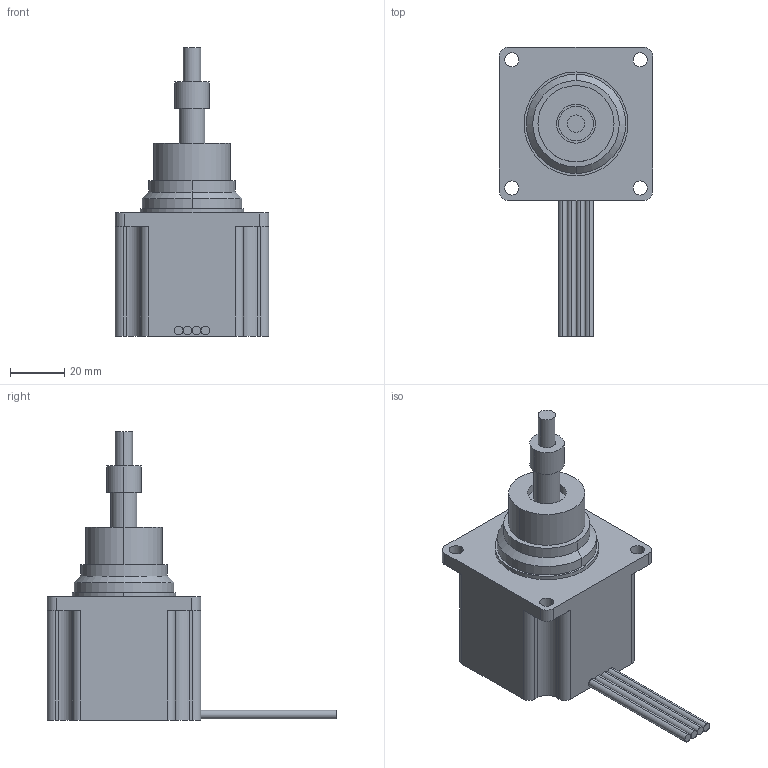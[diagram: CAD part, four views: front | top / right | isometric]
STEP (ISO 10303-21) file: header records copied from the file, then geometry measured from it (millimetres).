
FILE_DESCRIPTION (( 'STEP AP214' ), '1' );
FILE_NAME ('AMETEK-57H4A-3.25-0.5-12.step', '2020-01-14T09:34:26', ( '' ), ( '' ), 'SwSTEP 2.0', 'SolidWorks 2019', '' );
FILE_SCHEMA (( 'AUTOMOTIVE_DESIGN' ));
Length unit declared in the file: inch
Products named in the file (1): AMETEK-57H4A-3.25-0.5-12
Bounding box: 56.4 x 106.4 x 105.84 mm (x, y, z)
Volume: 148233.8 mm3; surface area: 23687.2 mm2
Topology: 2 solids, 2 shells, 85 faces, 206 edges, 136 vertices
Faces by surface type: cylinder 52, plane 31, cone 2
Entity records: 3591 total; most frequent: DIRECTION 482, CARTESIAN_POINT 428, ORIENTED_EDGE 412, EDGE_CURVE 206, AXIS2_PLACEMENT_3D 190, VERTEX_POINT 136, EDGE_LOOP 106, CIRCLE 104
